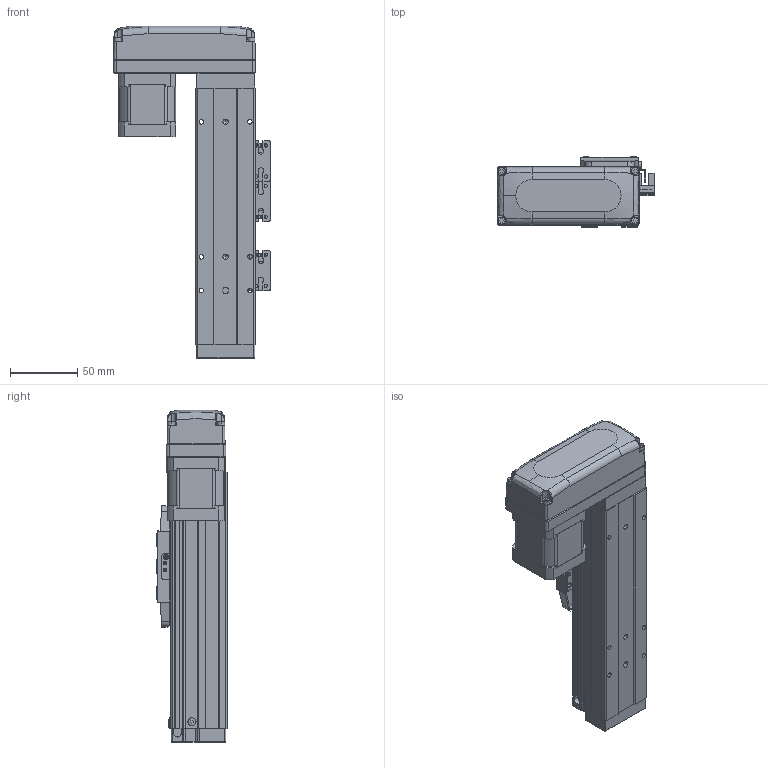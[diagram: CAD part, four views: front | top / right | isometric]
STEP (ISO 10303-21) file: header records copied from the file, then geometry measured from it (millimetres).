
FILE_DESCRIPTION (( 'STEP AP203' ), '1' );
FILE_NAME ('GTH4-50-BR-B42-C4.step', '2023-02-14T00:26:42', ( '微软用户' ), ( '微软中国' ), 'SwSTEP 2.0', 'SolidWorks 2020', '' );
FILE_SCHEMA (( 'CONFIG_CONTROL_DESIGN' ));
Length unit declared in the file: millimetre
Products named in the file (19): GTH4-50-BR-B42-C4; BTH40-006; BTH40-004; GBT96.1-2002 3×0.8; BTH-M3X5X6; BTH40-013; BTH40-022; GBT70.1-2000 M3×16; GBT 70.3-M3℅6; GBT 70.1-M2.5×6; BTH50-028; BTH40-027-1; BTH50-023; BTH50-026; BTH40-001-50_BTH40-001-50; BTH50-024; 42CM06; BTH40-003; GBT 70.1-M3℅6
Assembly tree (47 placements, depth 2):
  GTH4-50-BR-B42-C4
    BTH40-001-50_BTH40-001-50
    BTH40-003
    BTH40-006
    BTH-M3X5X6  x8
    GBT70.1-2000 M3×16  x4
    BTH50-028  x2
    BTH50-023  x3
    BTH50-024  x3
    GBT 70.1-M3℅6  x6
    GBT96.1-2002 3×0.8  x6
    BTH40-022
    GBT 70.1-M2.5×6  x2
    BTH40-004
    BTH40-013
    GBT 70.3-M3℅6  x4
    BTH40-027-1
    BTH50-026
    42CM06
Bounding box: 116.2 x 52 x 246 mm (x, y, z)
Volume: 561378.7 mm3; surface area: 148437 mm2
Topology: 56 solids, 56 shells, 3323 faces, 7736 edges, 4622 vertices
Faces by surface type: cone 1508, plane 1076, cylinder 561, torus 124, bspline 42, sphere 12
Entity records: 77446 total; most frequent: CARTESIAN_POINT 13969, DIRECTION 13761, ORIENTED_EDGE 12118, EDGE_CURVE 6059, AXIS2_PLACEMENT_3D 5277, VERTEX_POINT 3609, LINE 3207, VECTOR 3207
